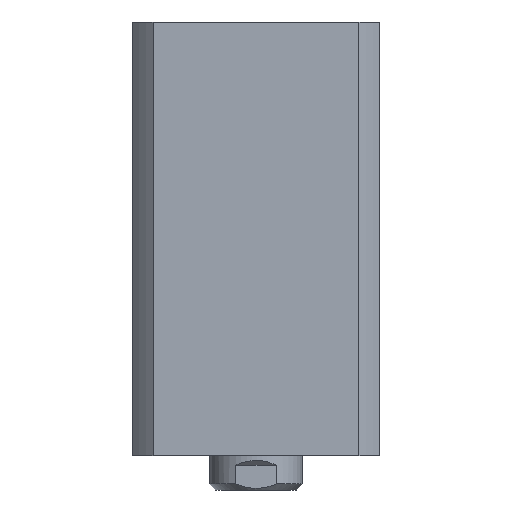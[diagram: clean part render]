
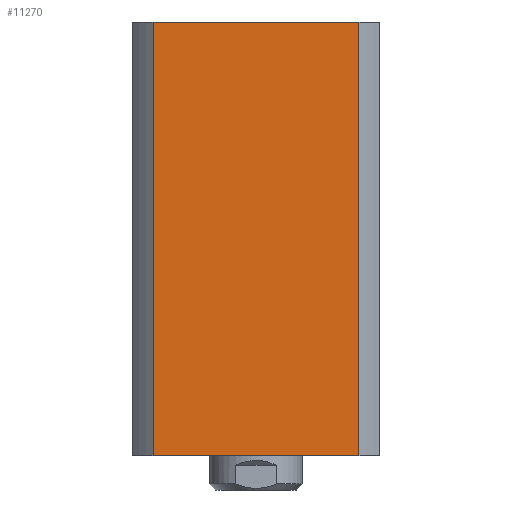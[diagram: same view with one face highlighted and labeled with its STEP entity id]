
A CAD part, left-side view. The second image highlights one B-rep face of the part: STEP entity #11270.
In plain terms, the highlighted planar face has unit normal (-1, 0, 0).
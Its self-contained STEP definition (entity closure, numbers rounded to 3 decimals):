
#142 = LINE ( 'NONE', #12759, #12835 ) ;
#447 = CARTESIAN_POINT ( 'NONE',  ( -40., -33.226, 70. ) ) ;
#737 = DIRECTION ( 'NONE',  ( 0., 1., 0. ) ) ;
#1557 = EDGE_LOOP ( 'NONE', ( #2199, #5354, #10134, #12630 ) ) ;
#2199 = ORIENTED_EDGE ( 'NONE', *, *, #13060, .T. ) ;
#2549 = DIRECTION ( 'NONE',  ( 0., 0., -1. ) ) ;
#2795 = DIRECTION ( 'NONE',  ( 0., 0., -1. ) ) ;
#2935 = CARTESIAN_POINT ( 'NONE',  ( -40., 33.226, 70. ) ) ;
#3037 = VECTOR ( 'NONE', #2549, 1000. ) ;
#4042 = VECTOR ( 'NONE', #13349, 1000. ) ;
#4154 = VERTEX_POINT ( 'NONE', #12797 ) ;
#4238 = VERTEX_POINT ( 'NONE', #447 ) ;
#4507 = EDGE_CURVE ( 'NONE', #4238, #4154, #142, .T. ) ;
#4622 = CARTESIAN_POINT ( 'NONE',  ( -40., 33.226, 70. ) ) ;
#5354 = ORIENTED_EDGE ( 'NONE', *, *, #4507, .F. ) ;
#5458 = VERTEX_POINT ( 'NONE', #8289 ) ;
#5787 = CARTESIAN_POINT ( 'NONE',  ( -40., 33.226, 70. ) ) ;
#6364 = VECTOR ( 'NONE', #8025, 1000. ) ;
#8025 = DIRECTION ( 'NONE',  ( 0., -1., 0. ) ) ;
#8289 = CARTESIAN_POINT ( 'NONE',  ( -40., 33.226, 70. ) ) ;
#8430 = EDGE_CURVE ( 'NONE', #5458, #8682, #11198, .T. ) ;
#8633 = LINE ( 'NONE', #4622, #4042 ) ;
#8682 = VERTEX_POINT ( 'NONE', #10189 ) ;
#9484 = DIRECTION ( 'NONE',  ( 1., 0., 0. ) ) ;
#10134 = ORIENTED_EDGE ( 'NONE', *, *, #10608, .F. ) ;
#10189 = CARTESIAN_POINT ( 'NONE',  ( -40., 33.226, -70. ) ) ;
#10608 = EDGE_CURVE ( 'NONE', #5458, #4238, #8633, .T. ) ;
#10982 = FACE_OUTER_BOUND ( 'NONE', #1557, .T. ) ;
#11198 = LINE ( 'NONE', #5787, #3037 ) ;
#11270 = ADVANCED_FACE ( 'NONE', ( #10982 ), #11621, .F. ) ;
#11493 = AXIS2_PLACEMENT_3D ( 'NONE', #2935, #9484, #737 ) ;
#11621 = PLANE ( 'NONE',  #11493 ) ;
#12630 = ORIENTED_EDGE ( 'NONE', *, *, #8430, .T. ) ;
#12759 = CARTESIAN_POINT ( 'NONE',  ( -40., -33.226, 70. ) ) ;
#12797 = CARTESIAN_POINT ( 'NONE',  ( -40., -33.226, -70. ) ) ;
#12835 = VECTOR ( 'NONE', #2795, 1000. ) ;
#13060 = EDGE_CURVE ( 'NONE', #8682, #4154, #13154, .T. ) ;
#13154 = LINE ( 'NONE', #13407, #6364 ) ;
#13349 = DIRECTION ( 'NONE',  ( 0., -1., 0. ) ) ;
#13407 = CARTESIAN_POINT ( 'NONE',  ( -40., 33.226, -70. ) ) ;
